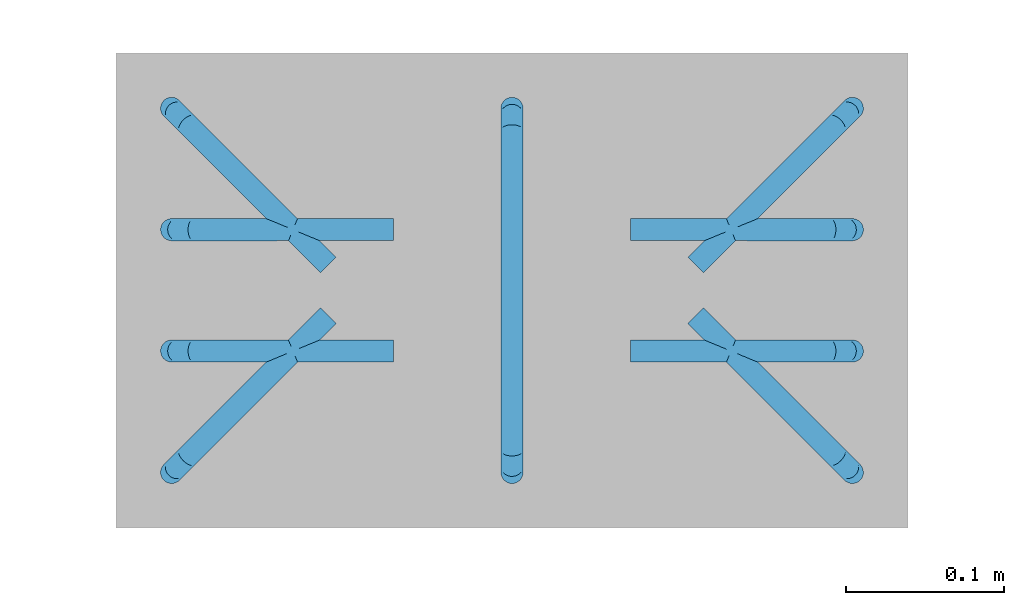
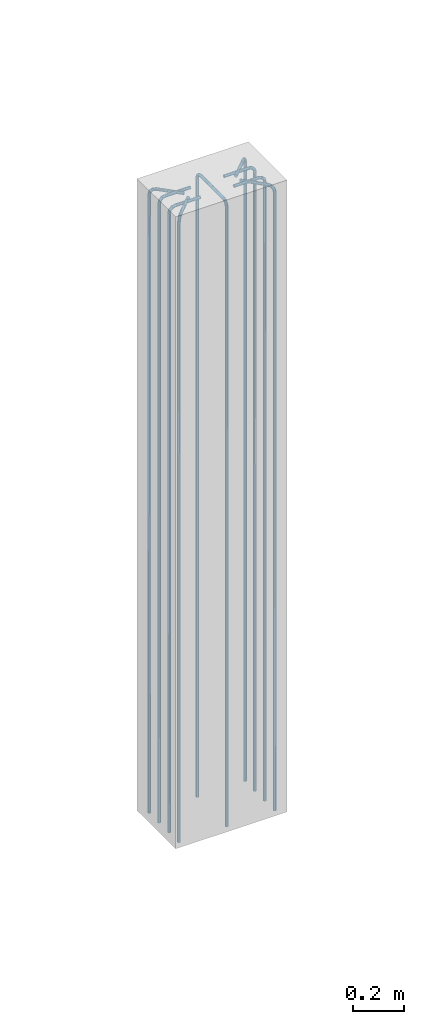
# One storey, part 6 of 11: 1 reinforcing bar.
"""IFC2X3 building model written with IfcOpenShell, lengths in metres."""

import ifcopenshell
import ifcopenshell.guid

model = None  # the IFC model being written
_history = None  # IfcOwnerHistory: only IFC2X3 demands one
_inside = {}  # id of a spatial element -> (the spatial element, [elements in it])
_under = {}  # id of a project, library or spatial element -> (it, [spatial elements below it])
_declared = {}  # id of a project -> (the project, [libraries it declares])
_typed = {}  # id of a type object -> (the type object, [elements of that type])
_made_of = {}  # id of a material, layer set ... -> (it, [elements and type objects made of it])


def new_model(schema):
    """Start an empty IFC model of exactly this schema.

    Asked for "IFC4X3", IfcOpenShell would pick the latest addendum, in which some entities
    have other attributes; the version numbers below select the first issue.
    IFC2X3 requires an IfcOwnerHistory on every rooted entity: one is made here for all.
    """
    global model, _history
    if schema == "IFC4X3":
        model = ifcopenshell.file(schema_version=(4, 3, 0, 0))
    else:
        model = ifcopenshell.file(schema=schema)
    _inside.clear()
    _under.clear()
    _declared.clear()
    _typed.clear()
    _made_of.clear()
    _history = None
    if model.schema == "IFC2X3":
        org = make("IfcOrganization", Name="unknown")
        user = make(
            "IfcPersonAndOrganization",
            ThePerson=make("IfcPerson", FamilyName="unknown"),
            TheOrganization=org,
        )
        app = make(
            "IfcApplication",
            ApplicationDeveloper=org,
            Version="unknown",
            ApplicationFullName="unknown",
            ApplicationIdentifier="unknown",
        )
        _history = make(
            "IfcOwnerHistory",
            OwningUser=user,
            OwningApplication=app,
            ChangeAction="ADDED",
            CreationDate=0,
        )
    return model


def make(cls, **values):
    """One entity of the class cls with the attributes given. An attribute that is None is left unset."""
    return model.create_entity(
        cls, **{name: value for name, value in values.items() if value is not None}
    )


def entity(cls, *values):
    """Any entity or typed value of the class cls, its attributes in the order of the schema. None: left unset."""
    e = model.create_entity(cls)
    for i, value in enumerate(values):
        if value is not None:
            e[i] = value
    return e


def rooted(cls, **values):
    """An entity with a GlobalId (a new one), such as an element, a storey or a relation."""
    return make(cls, GlobalId=ifcopenshell.guid.new(), OwnerHistory=_history, **values)


def si_unit(unit_type, name, prefix=None):
    """IfcSIUnit, for example si_unit("LENGTHUNIT", "METRE", prefix="MILLI")."""
    return make("IfcSIUnit", UnitType=unit_type, Prefix=prefix, Name=name)


def assignment(units):
    """IfcUnitAssignment: the units of a project."""
    return None if units is None else make("IfcUnitAssignment", Units=units)


def point(xyz):
    """IfcCartesianPoint."""
    return None if xyz is None else make("IfcCartesianPoint", Coordinates=xyz)


def direction(xyz):
    """IfcDirection."""
    return None if xyz is None else make("IfcDirection", DirectionRatios=xyz)


def frame(location, z_axis=None, x_axis=None):
    """IfcAxis2Placement3D, a coordinate frame: its origin and axes. An axis left out is left unset."""
    return make(
        "IfcAxis2Placement3D",
        Location=point(location),
        Axis=direction(z_axis),
        RefDirection=direction(x_axis),
    )


def origin():
    """The frame at (0, 0, 0) with its axes left unset."""
    return frame((0.0, 0.0, 0.0))


def place(relative_to, where):
    """IfcLocalPlacement: puts the frame where relative to a parent placement (None: the world)."""
    return make(
        "IfcLocalPlacement", PlacementRelTo=relative_to, RelativePlacement=where
    )


def context(
    kind, dimensions, precision=None, world=None, true_north=None, identifier=None
):
    """IfcGeometricRepresentationContext, for example the 3D "Model" context."""
    return make(
        "IfcGeometricRepresentationContext",
        ContextIdentifier=identifier,
        ContextType=kind,
        CoordinateSpaceDimension=dimensions,
        Precision=precision,
        WorldCoordinateSystem=world,
        TrueNorth=true_north,
    )


def subcontext(parent, identifier, kind, view, scale=None):
    """IfcGeometricRepresentationSubContext, for example "Body" below "Model"."""
    return make(
        "IfcGeometricRepresentationSubContext",
        ContextIdentifier=identifier,
        ContextType=kind,
        ParentContext=parent,
        TargetScale=scale,
        TargetView=view,
    )


def project(units=None, contexts=None):
    """IfcProject with its units and contexts."""
    return rooted(
        "IfcProject",
        Name="project",
        RepresentationContexts=contexts,
        UnitsInContext=assignment(units),
    )


def spatial(cls, under=None, at=None, **own):
    """A site, building, storey or space (cls), placed at a placement, below another one or the project."""
    s = rooted(cls, ObjectPlacement=at, **own)
    if under is not None:
        _under.setdefault(under.id(), (under, []))[1].append(s)
    return s


def shape(context_of_items, identifier, shape_type, items):
    """IfcShapeRepresentation: the items that make up one representation, for example the "Body"."""
    return make(
        "IfcShapeRepresentation",
        ContextOfItems=context_of_items,
        RepresentationIdentifier=identifier,
        RepresentationType=shape_type,
        Items=items,
    )


def source(mapping_origin, context_of_items, identifier, shape_type, items):
    """IfcRepresentationMap: a shape defined once, which mapped items show again and again."""
    return make(
        "IfcRepresentationMap",
        MappingOrigin=mapping_origin,
        MappedRepresentation=shape(context_of_items, identifier, shape_type, items),
    )


def transform(
    local_origin,
    x_axis=None,
    y_axis=None,
    z_axis=None,
    scale=None,
    scale2=None,
    scale3=None,
    uniform=True,
):
    """IfcCartesianTransformationOperator3D, or its non-uniform kind. x_axis, y_axis, z_axis: its Axis1, 2, 3."""
    if uniform:
        return make(
            "IfcCartesianTransformationOperator3D",
            Axis1=direction(x_axis),
            Axis2=direction(y_axis),
            LocalOrigin=point(local_origin),
            Scale=scale,
            Axis3=direction(z_axis),
        )
    return make(
        "IfcCartesianTransformationOperator3DnonUniform",
        Axis1=direction(x_axis),
        Axis2=direction(y_axis),
        LocalOrigin=point(local_origin),
        Scale=scale,
        Axis3=direction(z_axis),
        Scale2=scale2,
        Scale3=scale3,
    )


def mapped(mapping_source, mapping_target):
    """IfcMappedItem: shows the shape of a source again, moved by a transform."""
    return make(
        "IfcMappedItem", MappingSource=mapping_source, MappingTarget=mapping_target
    )


def made_of(thing, what):
    """Note that an element or type object is made of a material, layer set ...; save() writes the relation."""
    if what is not None:
        _made_of.setdefault(what.id(), (what, []))[1].append(thing)
    return thing


def element(
    cls,
    number,
    at=None,
    inside=None,
    cuts=None,
    type_object=None,
    material=None,
    context=None,
    identifier="Body",
    shape_type=None,
    held_by="IfcProductDefinitionShape",
    body=None,
    shapes=None,
    **own,
):
    """One element of the class cls, such as IfcWall. Its Tag is "e" and its number.

    at: its placement. inside: the storey or other place that contains it. cuts: it is an
    opening in that element (IfcRelVoidsElement). A single representation is given by context,
    identifier, shape_type and body (its items); several are given by shapes. held_by: the class
    of the entity that holds the representations. save() writes the other relations.
    """
    e = rooted(cls, Tag="e%d" % number, ObjectPlacement=at, **own)
    if body is not None:
        shapes = [shape(context, identifier, shape_type, body)]
    if shapes is not None:
        e.Representation = make(held_by, Representations=shapes)
    if inside is not None:
        _inside.setdefault(inside.id(), (inside, []))[1].append(e)
    if cuts is not None:
        rooted(
            "IfcRelVoidsElement", RelatingBuildingElement=cuts, RelatedOpeningElement=e
        )
    if type_object is not None:
        _typed.setdefault(type_object.id(), (type_object, []))[1].append(e)
    return made_of(e, material)


def aggregate(whole, parts):
    """IfcRelAggregates: a whole, such as a stair, and the parts it consists of."""
    return rooted("IfcRelAggregates", RelatingObject=whole, RelatedObjects=parts)


def save(model, path):
    """Write the relations noted so far, then the file.

    IfcRelAggregates (storeys below a building ...), IfcRelContainedInSpatialStructure (elements
    in a storey), IfcRelDefinesByType, IfcRelAssociatesMaterial and IfcRelDeclares: one each for
    every whole, place, type object, material and project.
    """
    for whole, parts in _under.values():
        aggregate(whole, parts)
    for where, things in _inside.values():
        rooted(
            "IfcRelContainedInSpatialStructure",
            RelatedElements=things,
            RelatingStructure=where,
        )
    for kind, things in _typed.values():
        rooted("IfcRelDefinesByType", RelatedObjects=things, RelatingType=kind)
    for what, things in _made_of.values():
        rooted("IfcRelAssociatesMaterial", RelatedObjects=things, RelatingMaterial=what)
    for by, libraries in _declared.values():
        rooted("IfcRelDeclares", RelatingContext=by, RelatedDefinitions=libraries)
    model.write(path)


model = new_model("IFC2X3")

# Units and contexts
model_context = context("Model", 3, precision=0.0, world=origin(), true_north=direction((0.0, 1.0)))
plan_context = context("Plan", 3, precision=0.0, world=origin(), true_north=direction((0.0, 1.0)))
body_context = subcontext(model_context, "Body", "Model", "MODEL_VIEW", scale=1.0)
ifc_project = project(units=[si_unit("LENGTHUNIT", "METRE"), si_unit("AREAUNIT", "SQUARE_METRE"), si_unit("VOLUMEUNIT", "CUBIC_METRE"), si_unit("PLANEANGLEUNIT", "RADIAN"), si_unit("THERMODYNAMICTEMPERATUREUNIT", "DEGREE_CELSIUS"), si_unit("FORCEUNIT", "NEWTON"), si_unit("MASSUNIT", "GRAM", prefix="KILO")], contexts=[model_context, plan_context])

# Site, building, storey
placement = place(None, origin())
site = spatial("IfcSite", under=ifc_project, at=placement, Name="Default Site", CompositionType="ELEMENT")
building = spatial("IfcBuilding", under=site, at=placement, Name="Default Building", CompositionType="ELEMENT")
storey_placement = place(placement, frame((0.0, 0.0, 3.0), z_axis=(1.0, 0.0, 0.0), x_axis=(0.0, 0.0, 1.0)))
storey = spatial("IfcBuildingStorey", under=building, at=storey_placement, Name="Piano 1", CompositionType="ELEMENT", Elevation=3.0)

# Reinforcing bar
shared_shape_1 = source(origin(), body_context, None, "AdvancedSweptSolid", [
    entity("IfcSweptDiskSolid", entity("IfcCompositeCurve", [entity("IfcCompositeCurveSegment", "CONTINUOUS", True, entity("IfcPolyline", [entity("IfcCartesianPoint", [0.0, 0.0, 0.0]), entity("IfcCartesianPoint", [0.0, 0.0, 2.937]), entity("IfcCartesianPoint", [0.002653, 0.002653, 2.951]), entity("IfcCartesianPoint", [0.009899, 0.009899, 2.961249]), entity("IfcCartesianPoint", [0.019799, 0.019799, 2.965]), entity("IfcCartesianPoint", [0.098995, 0.098995, 2.965])]))], False), 0.007, 0.0, 0.0),
])
shared_shape_2 = source(origin(), body_context, None, "MappedRepresentation", [mapped(shared_shape_1, transform((15.785, -0.115, 0.0)))])
shared_shape_3 = source(origin(), body_context, None, "AdvancedSweptSolid", [
    entity("IfcSweptDiskSolid", entity("IfcCompositeCurve", [entity("IfcCompositeCurveSegment", "CONTINUOUS", True, entity("IfcPolyline", [entity("IfcCartesianPoint", [0.0, 0.0, 0.0]), entity("IfcCartesianPoint", [0.0, 0.0, 2.937]), entity("IfcCartesianPoint", [-0.002653, 0.002653, 2.951]), entity("IfcCartesianPoint", [-0.009899, 0.009899, 2.961249]), entity("IfcCartesianPoint", [-0.019799, 0.019799, 2.965]), entity("IfcCartesianPoint", [-0.098995, 0.098995, 2.965])]))], False), 0.007, 0.0, 0.0),
])
shared_shape_4 = source(origin(), body_context, None, "MappedRepresentation", [mapped(shared_shape_3, transform((16.215, -0.115, 0.0)))])
shared_shape_5 = source(origin(), body_context, None, "AdvancedSweptSolid", [
    entity("IfcSweptDiskSolid", entity("IfcCompositeCurve", [entity("IfcCompositeCurveSegment", "CONTINUOUS", True, entity("IfcPolyline", [entity("IfcCartesianPoint", [0.0, 0.0, 0.0]), entity("IfcCartesianPoint", [0.0, 0.0, 2.937]), entity("IfcCartesianPoint", [-0.002653, -0.002653, 2.951]), entity("IfcCartesianPoint", [-0.009899, -0.009899, 2.961249]), entity("IfcCartesianPoint", [-0.019799, -0.019799, 2.965]), entity("IfcCartesianPoint", [-0.098995, -0.098995, 2.965])]))], False), 0.007, 0.0, 0.0),
])
shared_shape_6 = source(origin(), body_context, None, "MappedRepresentation", [mapped(shared_shape_5, transform((16.215, 0.115, 0.0)))])
shared_shape_7 = source(origin(), body_context, None, "AdvancedSweptSolid", [
    entity("IfcSweptDiskSolid", entity("IfcCompositeCurve", [entity("IfcCompositeCurveSegment", "CONTINUOUS", True, entity("IfcPolyline", [entity("IfcCartesianPoint", [0.0, 0.0, 0.0]), entity("IfcCartesianPoint", [0.0, 0.0, 2.937]), entity("IfcCartesianPoint", [0.002653, -0.002653, 2.951]), entity("IfcCartesianPoint", [0.009899, -0.009899, 2.961249]), entity("IfcCartesianPoint", [0.019799, -0.019799, 2.965]), entity("IfcCartesianPoint", [0.098995, -0.098995, 2.965])]))], False), 0.007, 0.0, 0.0),
])
shared_shape_8 = source(origin(), body_context, None, "MappedRepresentation", [mapped(shared_shape_7, transform((15.785, 0.115, 0.0)))])
shared_shape_9 = source(origin(), body_context, None, "AdvancedSweptSolid", [
    entity("IfcSweptDiskSolid", entity("IfcCompositeCurve", [entity("IfcCompositeCurveSegment", "CONTINUOUS", True, entity("IfcPolyline", [entity("IfcCartesianPoint", [0.0, 0.0, 0.0]), entity("IfcCartesianPoint", [0.0, 0.0, 2.937]), entity("IfcCartesianPoint", [0.0, 0.003751, 2.951]), entity("IfcCartesianPoint", [0.0, 0.014, 2.961249]), entity("IfcCartesianPoint", [0.0, 0.028, 2.965]), entity("IfcCartesianPoint", [0.0, 0.14, 2.965])]))], False), 0.007, 0.0, 0.0),
])
shared_shape_10 = source(origin(), body_context, None, "MappedRepresentation", [mapped(shared_shape_9, transform((16.0, -0.115, 0.0)))])
shared_shape_11 = source(origin(), body_context, None, "AdvancedSweptSolid", [
    entity("IfcSweptDiskSolid", entity("IfcCompositeCurve", [entity("IfcCompositeCurveSegment", "CONTINUOUS", True, entity("IfcPolyline", [entity("IfcCartesianPoint", [0.0, 0.0, 0.0]), entity("IfcCartesianPoint", [0.0, 0.0, 2.937]), entity("IfcCartesianPoint", [-0.003751, 0.0, 2.951]), entity("IfcCartesianPoint", [-0.014, 0.0, 2.961249]), entity("IfcCartesianPoint", [-0.028, 0.0, 2.965]), entity("IfcCartesianPoint", [-0.14, 0.0, 2.965])]))], False), 0.007, 0.0, 0.0),
])
shared_shape_12 = source(origin(), body_context, None, "MappedRepresentation", [mapped(shared_shape_11, transform((16.215, -0.038333, 0.0)))])
shared_shape_13 = source(origin(), body_context, None, "AdvancedSweptSolid", [
    entity("IfcSweptDiskSolid", entity("IfcCompositeCurve", [entity("IfcCompositeCurveSegment", "CONTINUOUS", True, entity("IfcPolyline", [entity("IfcCartesianPoint", [0.0, 0.0, 0.0]), entity("IfcCartesianPoint", [0.0, 0.0, 2.937]), entity("IfcCartesianPoint", [-0.003751, 0.0, 2.951]), entity("IfcCartesianPoint", [-0.014, 0.0, 2.961249]), entity("IfcCartesianPoint", [-0.028, 0.0, 2.965]), entity("IfcCartesianPoint", [-0.14, 0.0, 2.965])]))], False), 0.007, 0.0, 0.0),
])
shared_shape_14 = source(origin(), body_context, None, "MappedRepresentation", [mapped(shared_shape_13, transform((16.215, 0.038333, 0.0)))])
shared_shape_15 = source(origin(), body_context, None, "AdvancedSweptSolid", [
    entity("IfcSweptDiskSolid", entity("IfcCompositeCurve", [entity("IfcCompositeCurveSegment", "CONTINUOUS", True, entity("IfcPolyline", [entity("IfcCartesianPoint", [0.0, 0.0, 0.0]), entity("IfcCartesianPoint", [0.0, 0.0, 2.937]), entity("IfcCartesianPoint", [0.0, -0.003751, 2.951]), entity("IfcCartesianPoint", [0.0, -0.014, 2.961249]), entity("IfcCartesianPoint", [0.0, -0.028, 2.965]), entity("IfcCartesianPoint", [0.0, -0.14, 2.965])]))], False), 0.007, 0.0, 0.0),
])
shared_shape_16 = source(origin(), body_context, None, "MappedRepresentation", [mapped(shared_shape_15, transform((16.0, 0.115, 0.0)))])
shared_shape_17 = source(origin(), body_context, None, "AdvancedSweptSolid", [
    entity("IfcSweptDiskSolid", entity("IfcCompositeCurve", [entity("IfcCompositeCurveSegment", "CONTINUOUS", True, entity("IfcPolyline", [entity("IfcCartesianPoint", [0.0, 0.0, 0.0]), entity("IfcCartesianPoint", [0.0, 0.0, 2.937]), entity("IfcCartesianPoint", [0.003751, 0.0, 2.951]), entity("IfcCartesianPoint", [0.014, 0.0, 2.961249]), entity("IfcCartesianPoint", [0.028, 0.0, 2.965]), entity("IfcCartesianPoint", [0.14, 0.0, 2.965])]))], False), 0.007, 0.0, 0.0),
])
shared_shape_18 = source(origin(), body_context, None, "MappedRepresentation", [mapped(shared_shape_17, transform((15.785, 0.038333, 0.0)))])
shared_shape_19 = source(origin(), body_context, None, "AdvancedSweptSolid", [
    entity("IfcSweptDiskSolid", entity("IfcCompositeCurve", [entity("IfcCompositeCurveSegment", "CONTINUOUS", True, entity("IfcPolyline", [entity("IfcCartesianPoint", [0.0, 0.0, 0.0]), entity("IfcCartesianPoint", [0.0, 0.0, 2.937]), entity("IfcCartesianPoint", [0.003751, 0.0, 2.951]), entity("IfcCartesianPoint", [0.014, 0.0, 2.961249]), entity("IfcCartesianPoint", [0.028, 0.0, 2.965]), entity("IfcCartesianPoint", [0.14, 0.0, 2.965])]))], False), 0.007, 0.0, 0.0),
])
shared_shape_20 = source(origin(), body_context, None, "MappedRepresentation", [mapped(shared_shape_19, transform((15.785, -0.038333, 0.0)))])
element("IfcReinforcingBar", 1, at=placement, inside=storey, Name="Arm Principale; Pilastro:5 [Piano:1]", BarLength=31.05, BarRole="MAIN", BarSurface="TEXTURED", NominalDiameter=0.014, shapes=[
    shape(body_context, None, "MappedRepresentation", [mapped(shared_shape_2, transform((0.0, 0.0, 0.0))), mapped(shared_shape_4, transform((0.0, 0.0, 0.0))), mapped(shared_shape_6, transform((0.0, 0.0, 0.0))), mapped(shared_shape_8, transform((0.0, 0.0, 0.0))), mapped(shared_shape_10, transform((0.0, 0.0, 0.0))), mapped(shared_shape_12, transform((0.0, 0.0, 0.0))), mapped(shared_shape_14, transform((0.0, 0.0, 0.0))), mapped(shared_shape_16, transform((0.0, 0.0, 0.0))), mapped(shared_shape_18, transform((0.0, 0.0, 0.0))), mapped(shared_shape_20, transform((0.0, 0.0, 0.0)))]),
])

save(model, "model.ifc")
